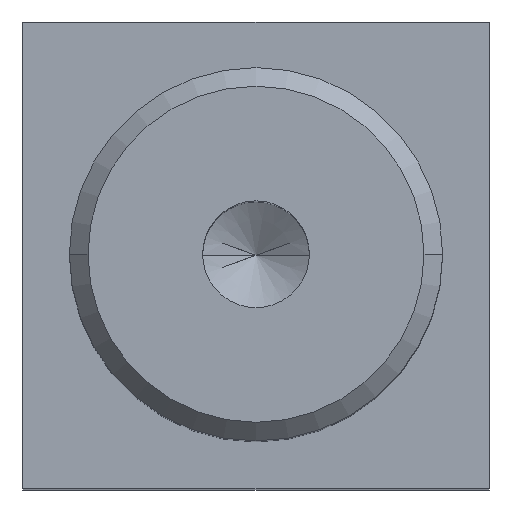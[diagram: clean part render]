
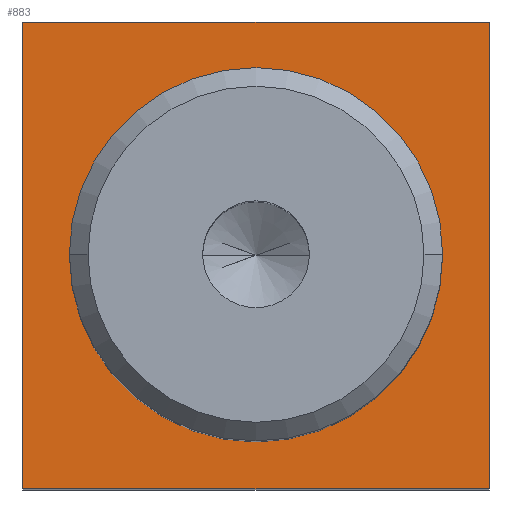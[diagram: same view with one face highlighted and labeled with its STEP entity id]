
A CAD part, top view. The second image highlights one B-rep face of the part: STEP entity #883.
In plain terms, the highlighted planar face has unit normal (0, 0, 1).
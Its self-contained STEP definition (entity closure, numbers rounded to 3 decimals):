
#635 = EDGE_CURVE ( 'NONE', #636, #637, #2070, .T. ) ;
#636 = VERTEX_POINT ( 'NONE', #2064 ) ;
#637 = VERTEX_POINT ( 'NONE', #2063 ) ;
#876 = ORIENTED_EDGE ( 'NONE', *, *, #959, .T. ) ;
#877 = ORIENTED_EDGE ( 'NONE', *, *, #635, .F. ) ;
#878 = EDGE_CURVE ( 'NONE', #637, #636, #2525, .T. ) ;
#879 = ORIENTED_EDGE ( 'NONE', *, *, #947, .T. ) ;
#880 = EDGE_LOOP ( 'NONE', ( #877, #881 ) ) ;
#881 = ORIENTED_EDGE ( 'NONE', *, *, #878, .F. ) ;
#882 = EDGE_LOOP ( 'NONE', ( #885, #884, #876, #879 ) ) ;
#883 = ADVANCED_FACE ( 'NONE', ( #2520, #2519 ), #2518, .T. ) ;
#884 = ORIENTED_EDGE ( 'NONE', *, *, #902, .T. ) ;
#885 = ORIENTED_EDGE ( 'NONE', *, *, #898, .T. ) ;
#896 = VERTEX_POINT ( 'NONE', #2559 ) ;
#898 = EDGE_CURVE ( 'NONE', #945, #896, #2558, .T. ) ;
#902 = EDGE_CURVE ( 'NONE', #896, #960, #2554, .T. ) ;
#917 = VERTEX_POINT ( 'NONE', #2583 ) ;
#945 = VERTEX_POINT ( 'NONE', #2564 ) ;
#947 = EDGE_CURVE ( 'NONE', #917, #945, #2625, .T. ) ;
#959 = EDGE_CURVE ( 'NONE', #960, #917, #2600, .T. ) ;
#960 = VERTEX_POINT ( 'NONE', #2596 ) ;
#2063 = CARTESIAN_POINT ( 'NONE',  ( -20., 0., 82.5 ) ) ;
#2064 = CARTESIAN_POINT ( 'NONE',  ( 20., 0., 82.5 ) ) ;
#2065 = DIRECTION ( 'NONE',  ( 1., 0., 0. ) ) ;
#2066 = DIRECTION ( 'NONE',  ( 0., 0., 1. ) ) ;
#2067 = CARTESIAN_POINT ( 'NONE',  ( 0., 0., 82.5 ) ) ;
#2069 = AXIS2_PLACEMENT_3D ( 'NONE', #2067, #2066, #2065 ) ;
#2070 = CIRCLE ( 'NONE', #2069, 20. ) ;
#2513 = DIRECTION ( 'NONE',  ( 1., 0., 0. ) ) ;
#2514 = DIRECTION ( 'NONE',  ( 0., 0., 1. ) ) ;
#2515 = AXIS2_PLACEMENT_3D ( 'NONE', #2517, #2514, #2513 ) ;
#2517 = CARTESIAN_POINT ( 'NONE',  ( 0., 0., 82.5 ) ) ;
#2518 = PLANE ( 'NONE',  #2515 ) ;
#2519 = FACE_BOUND ( 'NONE', #880, .T. ) ;
#2520 = FACE_OUTER_BOUND ( 'NONE', #882, .T. ) ;
#2521 = DIRECTION ( 'NONE',  ( 1., 0., 0. ) ) ;
#2522 = DIRECTION ( 'NONE',  ( 0., 0., 1. ) ) ;
#2523 = CARTESIAN_POINT ( 'NONE',  ( 0., 0., 82.5 ) ) ;
#2524 = AXIS2_PLACEMENT_3D ( 'NONE', #2523, #2522, #2521 ) ;
#2525 = CIRCLE ( 'NONE', #2524, 20. ) ;
#2551 = DIRECTION ( 'NONE',  ( 1., 0., 0. ) ) ;
#2552 = VECTOR ( 'NONE', #2551, 1000. ) ;
#2553 = CARTESIAN_POINT ( 'NONE',  ( 0., -25., 82.5 ) ) ;
#2554 = LINE ( 'NONE', #2553, #2552 ) ;
#2555 = DIRECTION ( 'NONE',  ( 0., -1., 0. ) ) ;
#2556 = VECTOR ( 'NONE', #2555, 1000. ) ;
#2557 = CARTESIAN_POINT ( 'NONE',  ( -25., 0., 82.5 ) ) ;
#2558 = LINE ( 'NONE', #2557, #2556 ) ;
#2559 = CARTESIAN_POINT ( 'NONE',  ( -25., -25., 82.5 ) ) ;
#2564 = CARTESIAN_POINT ( 'NONE',  ( -25., 25., 82.5 ) ) ;
#2583 = CARTESIAN_POINT ( 'NONE',  ( 25., 25., 82.5 ) ) ;
#2596 = CARTESIAN_POINT ( 'NONE',  ( 25., -25., 82.5 ) ) ;
#2597 = DIRECTION ( 'NONE',  ( 0., 1., 0. ) ) ;
#2598 = VECTOR ( 'NONE', #2597, 1000. ) ;
#2599 = CARTESIAN_POINT ( 'NONE',  ( 25., 0., 82.5 ) ) ;
#2600 = LINE ( 'NONE', #2599, #2598 ) ;
#2622 = DIRECTION ( 'NONE',  ( -1., 0., 0. ) ) ;
#2623 = VECTOR ( 'NONE', #2622, 1000. ) ;
#2624 = CARTESIAN_POINT ( 'NONE',  ( 0., 25., 82.5 ) ) ;
#2625 = LINE ( 'NONE', #2624, #2623 ) ;
